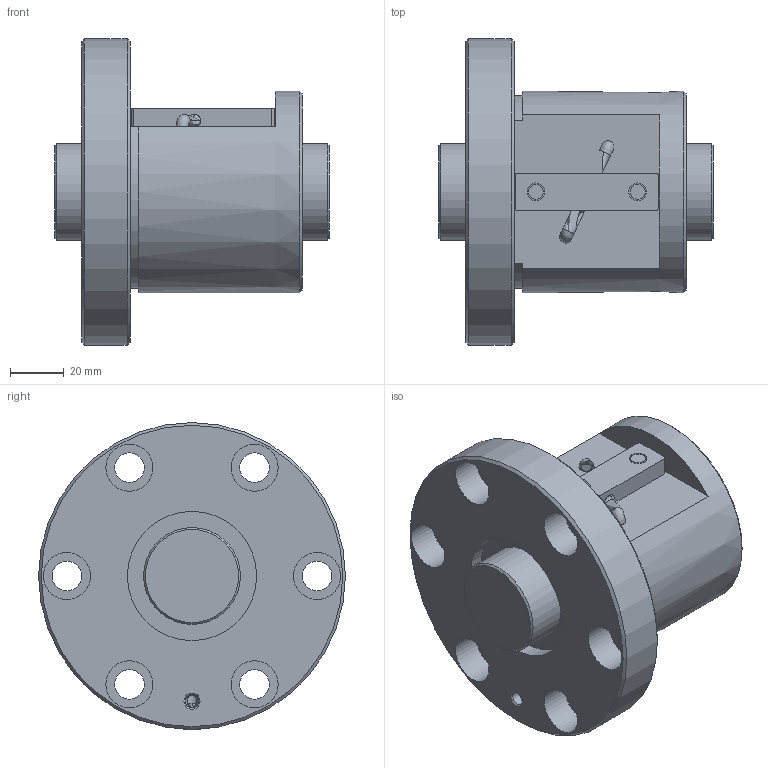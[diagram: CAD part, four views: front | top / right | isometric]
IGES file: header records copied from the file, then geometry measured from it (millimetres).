
Start section: Data from Parasolid IGES Translator 26.0.171, Copyright(c) 2006 Siemens PLM Software. All Rights Reserved.
Global section: file name: BNF3620V-1.5RRG1+102LC0_000_rev.igs; native system: By Siemens PLM Incorporated; preprocessor: XPlus GENERIC/IGES 26.0.171; author: Noname; organization: Noname; date: 20240806.084037; units: millimetre
Bounding box: 102 x 114 x 114 mm (x, y, z)
Surface area: 69617.8 mm2 (no closed solid volume)
Topology: 0 solids, 0 shells, 71 faces, 310 edges, 272 vertices
Faces by surface type: revolution 44, extrusion 27
